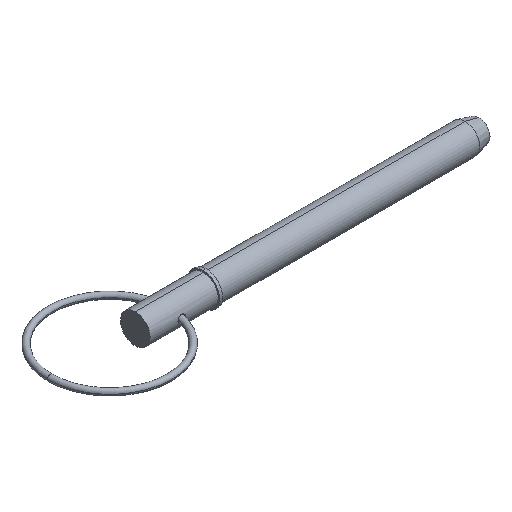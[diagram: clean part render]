
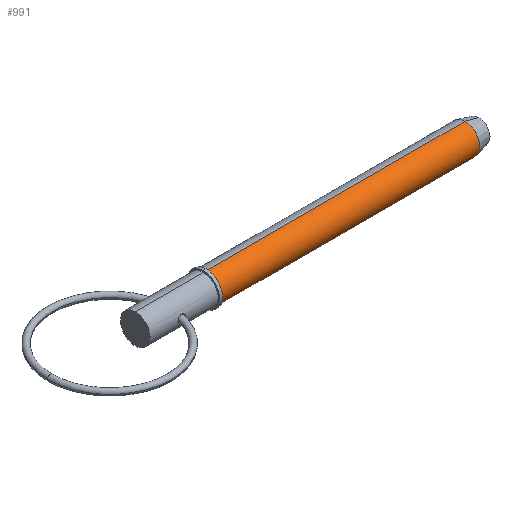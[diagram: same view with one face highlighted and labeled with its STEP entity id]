
A CAD part, isometric view. The second image highlights one B-rep face of the part: STEP entity #991.
In plain terms, the highlighted cylindrical face has radius 3.97 mm (diameter 7.94 mm), a partial arc.
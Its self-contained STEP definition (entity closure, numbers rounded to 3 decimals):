
#5 = VECTOR ( 'NONE', #703, 1000. ) ;
#34 = CYLINDRICAL_SURFACE ( 'NONE', #383, 3.97 ) ;
#102 = DIRECTION ( 'NONE',  ( 1., 0., 0. ) ) ;
#150 = EDGE_CURVE ( 'NONE', #551, #502, #311, .T. ) ;
#156 = ORIENTED_EDGE ( 'NONE', *, *, #150, .T. ) ;
#174 = CARTESIAN_POINT ( 'NONE',  ( 88.376, 0., 0. ) ) ;
#195 = ORIENTED_EDGE ( 'NONE', *, *, #348, .F. ) ;
#200 = VERTEX_POINT ( 'NONE', #615 ) ;
#201 = CARTESIAN_POINT ( 'NONE',  ( 19.05, 0., 3.97 ) ) ;
#233 = CARTESIAN_POINT ( 'NONE',  ( 19.05, 0., 0. ) ) ;
#254 = CARTESIAN_POINT ( 'NONE',  ( 0., 0., -3.97 ) ) ;
#281 = EDGE_CURVE ( 'NONE', #502, #200, #952, .T. ) ;
#301 = ORIENTED_EDGE ( 'NONE', *, *, #281, .T. ) ;
#311 = CIRCLE ( 'NONE', #412, 3.97 ) ;
#315 = DIRECTION ( 'NONE',  ( 1., 0., 0. ) ) ;
#338 = CARTESIAN_POINT ( 'NONE',  ( 88.376, 0., 3.97 ) ) ;
#348 = EDGE_CURVE ( 'NONE', #852, #200, #698, .T. ) ;
#361 = EDGE_CURVE ( 'NONE', #551, #852, #638, .T. ) ;
#383 = AXIS2_PLACEMENT_3D ( 'NONE', #654, #102, #722 ) ;
#407 = DIRECTION ( 'NONE',  ( 0., 0., -1. ) ) ;
#412 = AXIS2_PLACEMENT_3D ( 'NONE', #233, #457, #772 ) ;
#415 = DIRECTION ( 'NONE',  ( 1., 0., 0. ) ) ;
#457 = DIRECTION ( 'NONE',  ( 1., 0., 0. ) ) ;
#502 = VERTEX_POINT ( 'NONE', #659 ) ;
#551 = VERTEX_POINT ( 'NONE', #201 ) ;
#615 = CARTESIAN_POINT ( 'NONE',  ( 88.376, 0., -3.97 ) ) ;
#638 = LINE ( 'NONE', #776, #830 ) ;
#654 = CARTESIAN_POINT ( 'NONE',  ( 0., 0., 0. ) ) ;
#659 = CARTESIAN_POINT ( 'NONE',  ( 19.05, 0., -3.97 ) ) ;
#677 = EDGE_LOOP ( 'NONE', ( #980, #156, #301, #195 ) ) ;
#698 = CIRCLE ( 'NONE', #990, 3.97 ) ;
#703 = DIRECTION ( 'NONE',  ( 1., 0., 0. ) ) ;
#722 = DIRECTION ( 'NONE',  ( 0., 0., -1. ) ) ;
#772 = DIRECTION ( 'NONE',  ( 0., 0., -1. ) ) ;
#776 = CARTESIAN_POINT ( 'NONE',  ( 0., 0., 3.97 ) ) ;
#830 = VECTOR ( 'NONE', #315, 1000. ) ;
#852 = VERTEX_POINT ( 'NONE', #338 ) ;
#952 = LINE ( 'NONE', #254, #5 ) ;
#965 = FACE_OUTER_BOUND ( 'NONE', #677, .T. ) ;
#980 = ORIENTED_EDGE ( 'NONE', *, *, #361, .F. ) ;
#990 = AXIS2_PLACEMENT_3D ( 'NONE', #174, #415, #407 ) ;
#991 = ADVANCED_FACE ( 'NONE', ( #965 ), #34, .T. ) ;
